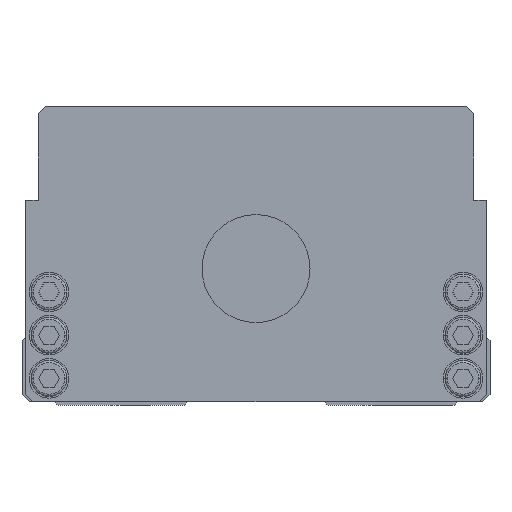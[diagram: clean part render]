
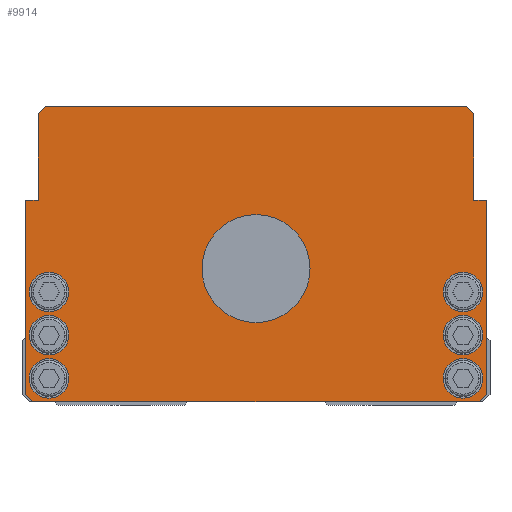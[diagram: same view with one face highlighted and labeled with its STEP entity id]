
A CAD part, front view. The second image highlights one B-rep face of the part: STEP entity #9914.
In plain terms, the highlighted planar face has unit normal (0, -1, 0).
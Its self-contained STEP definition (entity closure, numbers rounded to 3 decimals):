
#5240=VERTEX_POINT('',#15522);
#5296=VERTEX_POINT('',#15583);
#5300=EDGE_CURVE('',#5666,#5296,#15587,.T.);
#5352=EDGE_CURVE('',#13452,#7134,#15643,.T.);
#5454=EDGE_CURVE('',#14296,#15360,#15757,.T.);
#5666=VERTEX_POINT('',#15993);
#5914=VERTEX_POINT('',#16266);
#6002=EDGE_CURVE('',#12260,#13254,#16380,.T.);
#6420=VERTEX_POINT('',#16835);
#6508=EDGE_CURVE('',#11448,#7356,#16929,.T.);
#6538=VERTEX_POINT('',#16964);
#6754=VERTEX_POINT('',#17200);
#6988=EDGE_CURVE('',#8502,#6754,#17454,.T.);
#7134=VERTEX_POINT('',#17619);
#7310=EDGE_CURVE('',#7418,#14836,#17811,.T.);
#7338=EDGE_CURVE('',#14912,#7464,#17842,.T.);
#7356=VERTEX_POINT('',#17862);
#7362=EDGE_CURVE('',#7498,#9150,#17868,.T.);
#7418=VERTEX_POINT('',#17935);
#7464=VERTEX_POINT('',#17986);
#7474=VERTEX_POINT('',#17997);
#7498=VERTEX_POINT('',#18030);
#8502=VERTEX_POINT('',#19143);
#8648=EDGE_CURVE('',#14418,#5240,#19309,.T.);
#8670=EDGE_CURVE('',#6754,#8502,#19334,.T.);
#8788=EDGE_CURVE('',#9074,#7498,#19474,.T.);
#8794=EDGE_CURVE('',#7474,#14418,#19480,.T.);
#9074=VERTEX_POINT('',#19797);
#9150=VERTEX_POINT('',#19881);
#9524=EDGE_CURVE('',#12972,#7474,#20297,.T.);
#9636=EDGE_CURVE('',#5296,#5666,#20434,.T.);
#9906=EDGE_CURVE('',#7464,#14912,#20743,.T.);
#9914=ADVANCED_FACE('',(#20751,#20752,#20753,#20754,#20755,#20756,#20757,#20758),#20759,.T.);
#10070=EDGE_CURVE('',#13254,#12972,#20930,.T.);
#10208=EDGE_CURVE('',#5914,#12260,#21089,.T.);
#10440=EDGE_CURVE('',#7356,#11448,#21341,.T.);
#11448=VERTEX_POINT('',#22451);
#11470=EDGE_CURVE('',#14836,#7418,#22478,.T.);
#11840=EDGE_CURVE('',#6420,#5914,#22904,.T.);
#11894=EDGE_CURVE('',#15360,#14296,#22959,.T.);
#12260=VERTEX_POINT('',#23380);
#12972=VERTEX_POINT('',#24157);
#13254=VERTEX_POINT('',#24475);
#13452=VERTEX_POINT('',#24693);
#14172=EDGE_CURVE('',#6538,#9074,#25498,.T.);
#14296=VERTEX_POINT('',#25639);
#14418=VERTEX_POINT('',#25773);
#14810=EDGE_CURVE('',#5240,#6538,#26203,.T.);
#14836=VERTEX_POINT('',#26231);
#14912=VERTEX_POINT('',#26309);
#15208=EDGE_CURVE('',#9150,#6420,#26638,.T.);
#15360=VERTEX_POINT('',#26807);
#15406=EDGE_CURVE('',#7134,#13452,#26860,.T.);
#15522=CARTESIAN_POINT('',(64.0,0.0,57.0));
#15583=CARTESIAN_POINT('',(-52.0,0.0,31.5));
#15587=CIRCLE('',#27094,5.5);
#15643=CIRCLE('',#27164,5.5);
#15757=CIRCLE('',#27319,5.5);
#15993=CARTESIAN_POINT('',(-63.0,0.0,31.5));
#16266=CARTESIAN_POINT('',(-60.5,0.0,57.0));
#16380=LINE('',#28157,#28158);
#16835=CARTESIAN_POINT('',(-64.0,0.0,57.0));
#16929=CIRCLE('',#28915,5.5);
#16964=CARTESIAN_POINT('',(64.0,0.0,3.0));
#17200=CARTESIAN_POINT('',(-63.0,0.0,7.5));
#17454=CIRCLE('',#29708,5.5);
#17619=CARTESIAN_POINT('',(52.0,0.0,19.5));
#17811=CIRCLE('',#30207,15.0);
#17842=CIRCLE('',#30250,5.5);
#17862=CARTESIAN_POINT('',(52.0,0.0,7.5));
#17868=LINE('',#30282,#30283);
#17935=CARTESIAN_POINT('',(-15.0,0.0,38.0));
#17986=CARTESIAN_POINT('',(63.0,0.0,31.5));
#17997=CARTESIAN_POINT('',(60.5,0.0,81.0));
#18030=CARTESIAN_POINT('',(-62.0,0.0,1.0));
#19143=CARTESIAN_POINT('',(-52.0,0.0,7.5));
#19309=LINE('',#32303,#32304);
#19334=CIRCLE('',#32340,5.5);
#19474=LINE('',#32519,#32520);
#19480=LINE('',#32531,#32532);
#19797=CARTESIAN_POINT('',(62.0,0.0,1.0));
#19881=CARTESIAN_POINT('',(-64.0,0.0,3.0));
#20297=LINE('',#33655,#33656);
#20434=CIRCLE('',#33825,5.5);
#20743=CIRCLE('',#34234,5.5);
#20751=FACE_BOUND('',#34244,.T.);
#20752=FACE_BOUND('',#34245,.T.);
#20753=FACE_BOUND('',#34246,.T.);
#20754=FACE_BOUND('',#34247,.T.);
#20755=FACE_BOUND('',#34248,.T.);
#20756=FACE_BOUND('',#34249,.T.);
#20757=FACE_BOUND('',#34250,.T.);
#20758=FACE_OUTER_BOUND('',#34251,.T.);
#20759=PLANE('',#34252);
#20930=LINE('',#34485,#34486);
#21089=LINE('',#34690,#34691);
#21341=CIRCLE('',#35033,5.5);
#22451=CARTESIAN_POINT('',(63.0,0.0,7.5));
#22478=CIRCLE('',#36576,15.0);
#22904=LINE('',#37176,#37177);
#22959=CIRCLE('',#37254,5.5);
#23380=CARTESIAN_POINT('',(-60.5,0.0,81.0));
#24157=CARTESIAN_POINT('',(58.5,0.0,83.0));
#24475=CARTESIAN_POINT('',(-58.5,0.0,83.0));
#24693=CARTESIAN_POINT('',(63.0,0.0,19.5));
#25498=LINE('',#40730,#40731);
#25639=CARTESIAN_POINT('',(-52.0,0.0,19.5));
#25773=CARTESIAN_POINT('',(60.5,0.0,57.0));
#26203=LINE('',#41702,#41703);
#26231=CARTESIAN_POINT('',(15.0,0.0,38.0));
#26309=CARTESIAN_POINT('',(52.0,0.0,31.5));
#26638=LINE('',#42363,#42364);
#26807=CARTESIAN_POINT('',(-63.0,0.0,19.5));
#26860=CIRCLE('',#42668,5.5);
#27094=AXIS2_PLACEMENT_3D('',#42832,#42833,#42834);
#27164=AXIS2_PLACEMENT_3D('',#42893,#42894,#42895);
#27319=AXIS2_PLACEMENT_3D('',#43047,#43048,#43049);
#28157=CARTESIAN_POINT('',(-58.5,0.0,83.0));
#28158=VECTOR('',#43831,1.);
#28915=AXIS2_PLACEMENT_3D('',#44371,#44372,#44373);
#29708=AXIS2_PLACEMENT_3D('',#44919,#44920,#44921);
#30207=AXIS2_PLACEMENT_3D('',#45287,#45288,#45289);
#30250=AXIS2_PLACEMENT_3D('',#45328,#45329,#45330);
#30282=CARTESIAN_POINT('',(-64.0,0.0,3.0));
#30283=VECTOR('',#45356,1.);
#32303=CARTESIAN_POINT('',(64.0,0.0,57.0));
#32304=VECTOR('',#47026,1.0);
#32340=AXIS2_PLACEMENT_3D('',#47062,#47063,#47064);
#32519=CARTESIAN_POINT('',(-62.0,0.0,1.0));
#32520=VECTOR('',#47282,1.0);
#32531=CARTESIAN_POINT('',(60.5,0.0,57.0));
#32532=VECTOR('',#47285,1.0);
#33655=CARTESIAN_POINT('',(60.5,0.0,81.0));
#33656=VECTOR('',#48233,1.);
#33825=AXIS2_PLACEMENT_3D('',#48452,#48453,#48454);
#34234=AXIS2_PLACEMENT_3D('',#48867,#48868,#48869);
#34244=EDGE_LOOP('',(#48872,#48873));
#34245=EDGE_LOOP('',(#48874,#48875));
#34246=EDGE_LOOP('',(#48876,#48877));
#34247=EDGE_LOOP('',(#48878,#48879));
#34248=EDGE_LOOP('',(#48880,#48881));
#34249=EDGE_LOOP('',(#48882,#48883));
#34250=EDGE_LOOP('',(#48884,#48885));
#34251=EDGE_LOOP('',(#48886,#48887,#48888,#48889,#48890,#48891,#48892,#48893,#48894,#48895,#48896,#48897));
#34252=AXIS2_PLACEMENT_3D('',#48898,#48899,#48900);
#34485=CARTESIAN_POINT('',(58.5,0.0,83.0));
#34486=VECTOR('',#49073,1.0);
#34690=CARTESIAN_POINT('',(-60.5,0.0,81.0));
#34691=VECTOR('',#49284,1.0);
#35033=AXIS2_PLACEMENT_3D('',#49541,#49542,#49543);
#36576=AXIS2_PLACEMENT_3D('',#50805,#50806,#50807);
#37176=CARTESIAN_POINT('',(-60.5,0.0,57.0));
#37177=VECTOR('',#51354,1.0);
#37254=AXIS2_PLACEMENT_3D('',#51386,#51387,#51388);
#40730=CARTESIAN_POINT('',(62.0,0.0,1.0));
#40731=VECTOR('',#54444,1.);
#41702=CARTESIAN_POINT('',(64.0,0.0,3.0));
#41703=VECTOR('',#55163,1.0);
#42363=CARTESIAN_POINT('',(-64.0,0.0,57.0));
#42364=VECTOR('',#55615,1.0);
#42668=AXIS2_PLACEMENT_3D('',#55877,#55878,#55879);
#42832=CARTESIAN_POINT('',(-57.5,0.0,31.5));
#42833=DIRECTION('',(-0.0,1.0,0.0));
#42834=DIRECTION('',(1.0,0.0,0.0));
#42893=CARTESIAN_POINT('',(57.5,0.0,19.5));
#42894=DIRECTION('',(-0.0,1.0,0.0));
#42895=DIRECTION('',(1.0,0.0,0.0));
#43047=CARTESIAN_POINT('',(-57.5,0.0,19.5));
#43048=DIRECTION('',(-0.0,1.0,0.0));
#43049=DIRECTION('',(1.0,0.0,0.0));
#43831=DIRECTION('',(0.707,0.0,0.707));
#44371=CARTESIAN_POINT('',(57.5,0.0,7.5));
#44372=DIRECTION('',(-0.0,1.0,0.0));
#44373=DIRECTION('',(1.0,0.0,0.0));
#44919=CARTESIAN_POINT('',(-57.5,0.0,7.5));
#44920=DIRECTION('',(-0.0,1.0,0.0));
#44921=DIRECTION('',(1.0,0.0,0.0));
#45287=CARTESIAN_POINT('',(0.0,0.0,38.0));
#45288=DIRECTION('',(-0.0,1.0,0.0));
#45289=DIRECTION('',(1.0,0.0,0.0));
#45328=CARTESIAN_POINT('',(57.5,0.0,31.5));
#45329=DIRECTION('',(-0.0,1.0,0.0));
#45330=DIRECTION('',(1.0,0.0,0.0));
#45356=DIRECTION('',(-0.707,0.0,0.707));
#47026=DIRECTION('',(1.0,0.0,0.0));
#47062=CARTESIAN_POINT('',(-57.5,0.0,7.5));
#47063=DIRECTION('',(-0.0,1.0,0.0));
#47064=DIRECTION('',(1.0,0.0,0.0));
#47282=DIRECTION('',(-1.0,0.0,-0.0));
#47285=DIRECTION('',(-0.0,0.0,-1.0));
#48233=DIRECTION('',(0.707,0.0,-0.707));
#48452=CARTESIAN_POINT('',(-57.5,0.0,31.5));
#48453=DIRECTION('',(-0.0,1.0,0.0));
#48454=DIRECTION('',(1.0,0.0,0.0));
#48867=CARTESIAN_POINT('',(57.5,0.0,31.5));
#48868=DIRECTION('',(-0.0,1.0,0.0));
#48869=DIRECTION('',(1.0,0.0,0.0));
#48872=ORIENTED_EDGE('',*,*,#11470,.T.);
#48873=ORIENTED_EDGE('',*,*,#7310,.T.);
#48874=ORIENTED_EDGE('',*,*,#9906,.T.);
#48875=ORIENTED_EDGE('',*,*,#7338,.T.);
#48876=ORIENTED_EDGE('',*,*,#5352,.T.);
#48877=ORIENTED_EDGE('',*,*,#15406,.T.);
#48878=ORIENTED_EDGE('',*,*,#6508,.T.);
#48879=ORIENTED_EDGE('',*,*,#10440,.T.);
#48880=ORIENTED_EDGE('',*,*,#9636,.T.);
#48881=ORIENTED_EDGE('',*,*,#5300,.T.);
#48882=ORIENTED_EDGE('',*,*,#5454,.T.);
#48883=ORIENTED_EDGE('',*,*,#11894,.T.);
#48884=ORIENTED_EDGE('',*,*,#6988,.T.);
#48885=ORIENTED_EDGE('',*,*,#8670,.T.);
#48886=ORIENTED_EDGE('',*,*,#7362,.F.);
#48887=ORIENTED_EDGE('',*,*,#8788,.F.);
#48888=ORIENTED_EDGE('',*,*,#14172,.F.);
#48889=ORIENTED_EDGE('',*,*,#14810,.F.);
#48890=ORIENTED_EDGE('',*,*,#8648,.F.);
#48891=ORIENTED_EDGE('',*,*,#8794,.F.);
#48892=ORIENTED_EDGE('',*,*,#9524,.F.);
#48893=ORIENTED_EDGE('',*,*,#10070,.F.);
#48894=ORIENTED_EDGE('',*,*,#6002,.F.);
#48895=ORIENTED_EDGE('',*,*,#10208,.F.);
#48896=ORIENTED_EDGE('',*,*,#11840,.F.);
#48897=ORIENTED_EDGE('',*,*,#15208,.F.);
#48898=CARTESIAN_POINT('',(0.,0.0,41.562));
#48899=DIRECTION('',(0.0,-1.0,0.0));
#48900=DIRECTION('',(1.0,0.0,0.0));
#49073=DIRECTION('',(1.0,0.0,0.0));
#49284=DIRECTION('',(0.0,0.0,1.0));
#49541=CARTESIAN_POINT('',(57.5,0.0,7.5));
#49542=DIRECTION('',(-0.0,1.0,0.0));
#49543=DIRECTION('',(1.0,0.0,0.0));
#50805=CARTESIAN_POINT('',(0.0,0.0,38.0));
#50806=DIRECTION('',(-0.0,1.0,0.0));
#50807=DIRECTION('',(1.0,0.0,0.0));
#51354=DIRECTION('',(1.0,0.0,0.0));
#51386=CARTESIAN_POINT('',(-57.5,0.0,19.5));
#51387=DIRECTION('',(-0.0,1.0,0.0));
#51388=DIRECTION('',(1.0,0.0,0.0));
#54444=DIRECTION('',(-0.707,0.0,-0.707));
#55163=DIRECTION('',(-0.0,0.0,-1.0));
#55615=DIRECTION('',(0.0,0.0,1.0));
#55877=CARTESIAN_POINT('',(57.5,0.0,19.5));
#55878=DIRECTION('',(-0.0,1.0,0.0));
#55879=DIRECTION('',(1.0,0.0,0.0));
